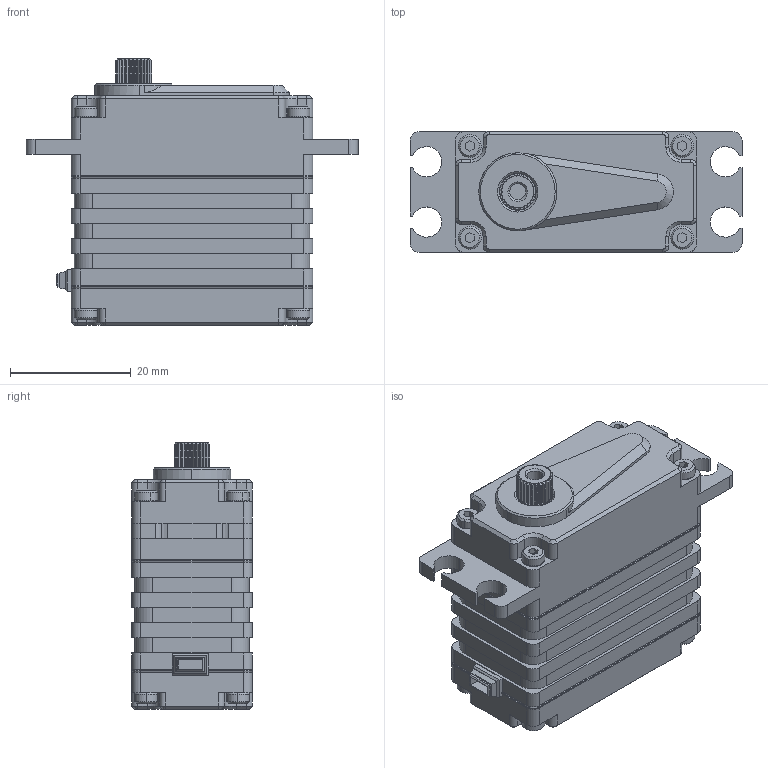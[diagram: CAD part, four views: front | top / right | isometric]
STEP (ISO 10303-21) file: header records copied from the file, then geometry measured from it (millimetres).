
FILE_DESCRIPTION (( 'STEP AP214' ), '1' );
FILE_NAME ('SV7012-12_DM_20240428.STEP', '2024-04-30T03:15:19', ( '' ), ( '' ), 'SwSTEP 2.0', 'SolidWorks 2016', '' );
FILE_SCHEMA (( 'AUTOMOTIVE_DESIGN' ));
Length unit declared in the file: millimetre
Products named in the file (1): SV7012-12_DM_20240428
Bounding box: 55 x 20 x 44.1 mm (x, y, z)
Surface area: 8058.3 mm2 (no closed solid volume)
Topology: 0 solids, 15 shells, 546 faces, 1480 edges, 964 vertices
Faces by surface type: plane 266, cylinder 175, cone 73, bspline 16, torus 16
Entity records: 24321 total; most frequent: CARTESIAN_POINT 4389, DIRECTION 2966, ORIENTED_EDGE 2836, EDGE_CURVE 1480, AXIS2_PLACEMENT_3D 1027, VERTEX_POINT 964, VECTOR 912, LINE 912
